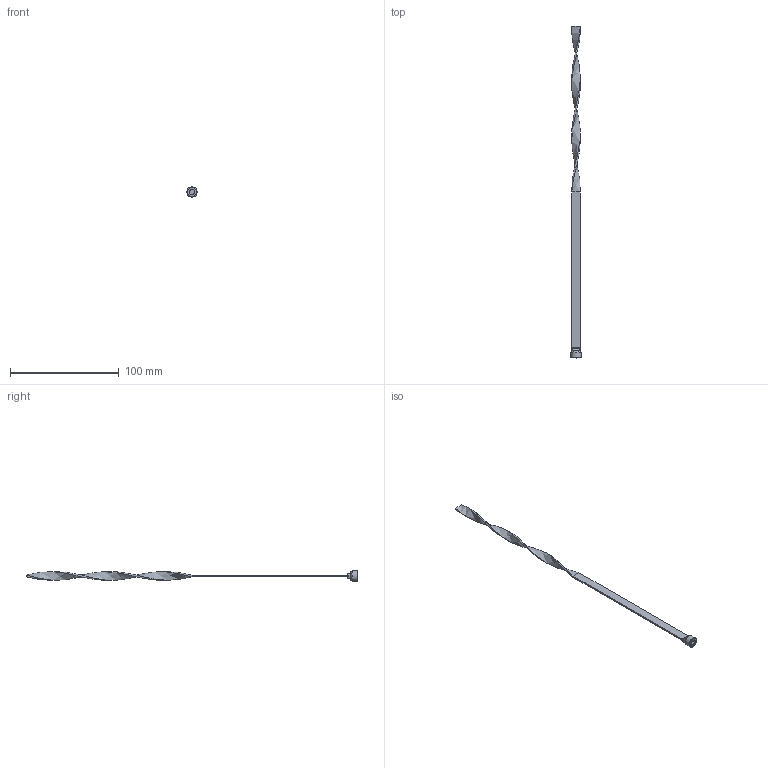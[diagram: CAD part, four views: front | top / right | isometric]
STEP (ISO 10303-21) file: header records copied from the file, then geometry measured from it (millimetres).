
FILE_DESCRIPTION(/* description */ (''),/* implementation_level */ '2;1');
FILE_NAME(/* name */ 'C:/Users/drich/Desktop/TB18X12 v1.step',/* time_stamp */ '2020-01-14T09:04:05-06:00',/* author */ (''),/* organization */ (''),/* preprocessor_version */ 'ST-DEVELOPER v18',/* originating_system */ 'Autodesk Translation Framework v8.12.0.6',/* authorisation */ '');
FILE_SCHEMA (('AUTOMOTIVE_DESIGN { 1 0 10303 214 3 1 1 }'));
Length unit declared in the file: inch
Products named in the file (1): TB18X12
Bounding box: 9.62 x 304.8 x 9.62 mm (x, y, z)
Volume: 3802.5 mm3; surface area: 5929.6 mm2
Topology: 2 solids, 2 shells, 41 faces, 112 edges, 76 vertices
Faces by surface type: plane 21, cylinder 8, torus 5, bspline 4, cone 3
Full cylindrical faces by diameter (mm): 7.772 x1, 9.621 x1
Entity records: 1754 total; most frequent: CARTESIAN_POINT 722, ORIENTED_EDGE 224, DIRECTION 187, EDGE_CURVE 112, VERTEX_POINT 76, AXIS2_PLACEMENT_3D 69, LINE 49, VECTOR 49
